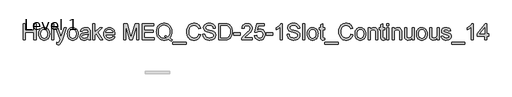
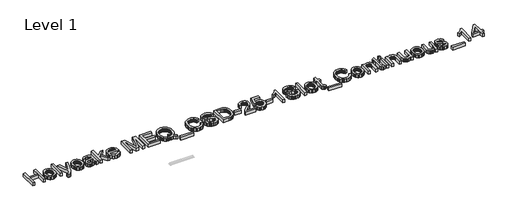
# One storey, part 2 of 2: 1 proxy.
"""IFC4 building model written with IfcOpenShell, lengths in millimetres."""

from ifc_helpers import new_model, si_unit, origin, origin_with_axes, place, context, project, spatial, polyline, outline, extrude, element, save

model = new_model("IFC4")

# Units and contexts
model_context = context("Model", 3, world=origin())
ifc_project = project(units=[si_unit("LENGTHUNIT", "METRE", prefix="MILLI")], contexts=[model_context])

# Site, building, storey
site = spatial("IfcSite", under=ifc_project)
building = spatial("IfcBuilding", under=site)
storey = spatial("IfcBuildingStorey", under=building, Name="Level 1", Elevation=0.0)

# Proxy
placement = place(None, origin())
element("IfcBuildingElementProxy", 1, Name="600mm", ObjectType="600mm", at=placement, inside=storey, context=model_context, shape_type="SweptSolid", body=[
    extrude(outline(polyline([(-7840.5524803, 6390.8910436), (-7840.5524803, 6993.6289045), (-7765.2102477, 6993.6289045), (-7765.2102477, 6748.7666485), (-7445.0057591, 6748.7666485), (-7445.0057591, 6993.6289045), (-7369.6635265, 6993.6289045), (-7369.6635265, 6390.8910436), (-7445.0057591, 6390.8910436), (-7445.0057591, 6673.4244159), (-7765.2102477, 6673.4244159), (-7765.2102477, 6390.8910436), (-7840.5524803, 6390.8910436)])), origin_with_axes(), (0.0, 0.0, 1.0), 120.0),
    extrude(outline(polyline([(-7266.0679567, 6612.2088519), (-7261.9936636, 6669.5340638), (-7249.7707843, 6718.9314187), (-7229.3993188, 6760.4009166), (-7200.8792671, 6793.9425575), (-7172.1660774, 6815.3808807), (-7140.4730435, 6830.6939688), (-7105.8001655, 6839.8818216), (-7068.1474433, 6842.9444392), (-7026.5813763, 6839.2150355), (-6988.997632, 6828.0268243), (-6955.3962103, 6809.3798057), (-6925.7771111, 6783.2739796), (-6901.6026655, 6750.5922629), (-6884.3352044, 6712.2175723), (-6873.9747277, 6668.1499078), (-6870.5212355, 6618.3892694), (-6872.0479457, 6578.0602057), (-6876.6280766, 6542.2744846), (-6884.261628, 6511.0321061), (-6894.9485999, 6484.3330703), (-6908.5556352, 6461.2714678), (-6924.9493766, 6440.941389), (-6944.1298242, 6423.3428341), (-6966.0969778, 6408.4758029), (-6989.9955119, 6396.6621924), (-7014.9701009, 6388.2238991), (-7041.0207446, 6383.1609231), (-7068.1474433, 6381.4732645), (-7110.3205155, 6385.1888726), (-7148.2537477, 6396.3356971), (-7181.9471399, 6414.9137378), (-7211.4006922, 6440.9229949), (-7235.3176204, 6473.9220099), (-7252.4011405, 6513.4693244), (-7262.6512526, 6559.5649384), (-7266.0679567, 6612.2088519)]), holes=[polyline([(-7190.7257241, 6612.3560047), (-7188.5460232, 6575.811527), (-7182.0069208, 6544.1690769), (-7171.1084167, 6517.4286543), (-7155.8505109, 6495.5902594), (-7137.2908643, 6478.6263009), (-7116.4871374, 6466.5091877), (-7093.4393304, 6459.2389197), (-7068.1474433, 6456.8154971), (-7042.9843148, 6459.2527153), (-7020.0284783, 6466.56437), (-6999.2799338, 6478.7504611), (-6980.7386812, 6495.8109886), (-6965.4807755, 6517.8655142), (-6954.5822714, 6545.0335995), (-6948.0431689, 6577.3152446), (-6945.8634681, 6614.7104494), (-6948.0569645, 6650.0960988), (-6954.6374537, 6680.9108145), (-6965.6049356, 6707.1545963), (-6980.9594104, 6728.8274443), (-6999.5696408, 6745.7914028), (-7020.3043898, 6757.9085161), (-7043.1636573, 6765.178784), (-7068.1474433, 6767.6022066), (-7093.4393304, 6765.187981), (-7116.4871374, 6757.9453043), (-7137.2908643, 6745.8741763), (-7155.8505109, 6728.9745971), (-7171.1084167, 6707.2005815), (-7182.0069208, 6680.5061443), (-7188.5460232, 6648.8912853), (-7190.7257241, 6612.3560047)])]), origin_with_axes(), (0.0, 0.0, 1.0), 120.0),
    extrude(outline(polyline([(-6785.7612238, 6390.8910436), (-6785.7612238, 6993.6289045), (-6710.4189912, 6993.6289045), (-6710.4189912, 6390.8910436), (-6785.7612238, 6390.8910436)])), origin_with_axes(), (0.0, 0.0, 1.0), 120.0),
    extrude(outline(polyline([(-6597.4056422, 6221.3710202), (-6606.8234213, 6293.9173496), (-6568.5636938, 6287.2954737), (-6548.4405487, 6289.374007), (-6532.8055639, 6295.6096068), (-6520.6286698, 6305.5608148), (-6510.879797, 6318.7861725), (-6490.2784052, 6374.2627774), (-6484.3922933, 6392.5097243), (-6644.4945376, 6833.5266602), (-6565.0320267, 6833.5266602), (-6480.1248622, 6587.7814874), (-6450.5471498, 6489.4834183), (-6420.9694373, 6576.3035691), (-6333.7078281, 6833.5266602), (-6254.8339283, 6833.5266602), (-6408.9029079, 6380.2960421), (-6448.928469, 6281.997973), (-6469.4194961, 6250.6176388), (-6492.63285, 6228.8758129), (-6519.5986003, 6216.1838841), (-6551.3468164, 6211.9532411), (-6573.1622188, 6214.3076859), (-6597.4056422, 6221.3710202)])), origin_with_axes(), (0.0, 0.0, 1.0), 120.0),
    extrude(outline(polyline([(-6211.2767001, 6612.2088519), (-6207.202407, 6669.5340638), (-6194.9795277, 6718.9314187), (-6174.6080622, 6760.4009166), (-6146.0880106, 6793.9425575), (-6117.3748208, 6815.3808807), (-6085.6817869, 6830.6939688), (-6051.0089089, 6839.8818216), (-6013.3561867, 6842.9444392), (-5971.7901198, 6839.2150355), (-5934.2063754, 6828.0268243), (-5900.6049537, 6809.3798057), (-5870.9858546, 6783.2739796), (-5846.811409, 6750.5922629), (-5829.5439478, 6712.2175723), (-5819.1834711, 6668.1499078), (-5815.7299789, 6618.3892694), (-5817.2566892, 6578.0602057), (-5821.83682, 6542.2744846), (-5829.4703714, 6511.0321061), (-5840.1573434, 6484.3330703), (-5853.7643787, 6461.2714678), (-5870.1581201, 6440.941389), (-5889.3385676, 6423.3428341), (-5911.3057212, 6408.4758029), (-5935.2042553, 6396.6621924), (-5960.1788443, 6388.2238991), (-5986.2294881, 6383.1609231), (-6013.3561867, 6381.4732645), (-6055.5292589, 6385.1888726), (-6093.4624911, 6396.3356971), (-6127.1558834, 6414.9137378), (-6156.6094356, 6440.9229949), (-6180.5263638, 6473.9220099), (-6197.609884, 6513.4693244), (-6207.8599961, 6559.5649384), (-6211.2767001, 6612.2088519)]), holes=[polyline([(-6135.9344675, 6612.3560047), (-6133.7547667, 6575.811527), (-6127.2156642, 6544.1690769), (-6116.3171601, 6517.4286543), (-6101.0592543, 6495.5902594), (-6082.4996077, 6478.6263009), (-6061.6958809, 6466.5091877), (-6038.6480739, 6459.2389197), (-6013.3561867, 6456.8154971), (-5988.1930582, 6459.2527153), (-5965.2372217, 6466.56437), (-5944.4886772, 6478.7504611), (-5925.9474246, 6495.8109886), (-5910.6895189, 6517.8655142), (-5899.7910148, 6545.0335995), (-5893.2519123, 6577.3152446), (-5891.0722115, 6614.7104494), (-5893.2657079, 6650.0960988), (-5899.8461971, 6680.9108145), (-5910.8136791, 6707.1545963), (-5926.1681538, 6728.8274443), (-5944.7783843, 6745.7914028), (-5965.5131332, 6757.9085161), (-5988.3724007, 6765.178784), (-6013.3561867, 6767.6022066), (-6038.6480739, 6765.187981), (-6061.6958809, 6757.9453043), (-6082.4996077, 6745.8741763), (-6101.0592543, 6728.9745971), (-6116.3171601, 6707.2005815), (-6127.2156642, 6680.5061443), (-6133.7547667, 6648.8912853), (-6135.9344675, 6612.3560047)])]), origin_with_axes(), (0.0, 0.0, 1.0), 120.0),
    extrude(outline(polyline([(-5448.4365949, 6447.397718), (-5484.4338481, 6416.5324186), (-5521.4979591, 6396.3356971), (-5560.4750565, 6385.1888726), (-5602.2112689, 6381.4732645), (-5635.7575083, 6383.7081476), (-5665.1742724, 6390.412797), (-5690.461561, 6401.5872126), (-5711.6193742, 6417.2313944), (-5728.3258154, 6436.3520611), (-5740.2589876, 6457.9559313), (-5747.4188909, 6482.0430049), (-5749.8055253, 6508.613282), (-5746.2002818, 6539.8464634), (-5735.3845511, 6568.2101652), (-5718.7011027, 6592.4903769), (-5697.4927056, 6611.4730879), (-5672.5687005, 6625.8204857), (-5644.7384275, 6636.1947579), (-5579.549738, 6647.5255234), (-5502.5152482, 6659.4449), (-5448.8780533, 6673.4244159), (-5448.4365949, 6690.1998348), (-5453.623731, 6723.8242492), (-5460.1076512, 6736.2770547), (-5469.1851394, 6745.8235925), (-5484.8753065, 6755.3517362), (-5503.9867762, 6762.1575531), (-5552.4736231, 6767.6022066), (-5597.3552265, 6763.978569), (-5628.6987725, 6753.107656), (-5650.0727165, 6733.002905), (-5665.0455137, 6701.6777531), (-5740.3877463, 6711.0955322), (-5727.3095413, 6752.2983156), (-5707.7934015, 6784.6719312), (-5680.0183109, 6809.4303895), (-5642.1632536, 6827.787701), (-5595.8653045, 6839.1552547), (-5542.7615385, 6842.9444392), (-5491.8282762, 6839.5967131), (-5451.4532273, 6829.5535346), (-5421.0109922, 6814.4519787), (-5399.8761715, 6795.9291203), (-5385.8598675, 6773.0284661), (-5376.7731822, 6744.7935229), (-5373.0943623, 6678.8690694), (-5373.0943623, 6585.132737), (-5369.2683895, 6454.2403231), (-5363.6030068, 6421.8851017), (-5354.2588041, 6390.8910436), (-5429.6010367, 6390.8910436), (-5441.6675662, 6417.0842416), (-5448.4365949, 6447.397718)]), holes=[polyline([(-5448.4365949, 6598.0821832), (-5499.0571574, 6585.5374072), (-5569.9848061, 6574.979194), (-5634.8056137, 6562.7655117), (-5651.6730031, 6554.4145904), (-5664.1625969, 6542.899884), (-5671.8881188, 6529.1043092), (-5674.4632927, 6513.9107828), (-5668.8530923, 6491.5067692), (-5652.022491, 6473.1494577), (-5624.3393709, 6460.8989872), (-5586.1716139, 6456.8154971), (-5545.7045944, 6461.3220515), (-5509.9464645, 6474.8417149), (-5480.9573633, 6494.7625249), (-5460.7974299, 6518.4725195), (-5451.8578975, 6542.899884), (-5448.8780533, 6576.7450275), (-5448.4365949, 6598.0821832)])]), origin_with_axes(), (0.0, 0.0, 1.0), 120.0),
    extrude(outline(polyline([(-5269.4987924, 6390.8910436), (-5269.4987924, 6993.6289045), (-5194.1565598, 6993.6289045), (-5194.1565598, 6669.7455959), (-5025.2251476, 6833.5266602), (-4921.0409666, 6833.5266602), (-5092.032518, 6667.6854567), (-4911.6231875, 6390.8910436), (-4999.6205608, 6390.8910436), (-5146.0375949, 6615.2990606), (-5194.1565598, 6568.6516236), (-5194.1565598, 6390.8910436), (-5269.4987924, 6390.8910436)])), origin_with_axes(), (0.0, 0.0, 1.0), 120.0),
    extrude(outline(polyline([(-4535.7949413, 6522.7399506), (-4461.9242366, 6513.3221716), (-4473.2504036, 6483.7352621), (-4488.540499, 6457.6616257), (-4507.7945229, 6435.1012623), (-4531.0124753, 6416.054172), (-4557.9552329, 6400.925025), (-4588.3836725, 6390.1184914), (-4622.2977939, 6383.6345712), (-4659.6975972, 6381.4732645), (-4706.4462018, 6385.2026682), (-4748.0996407, 6396.3908794), (-4784.657914, 6415.037898), (-4816.1210216, 6441.1437241), (-4841.4221058, 6473.9817907), (-4859.4943088, 6512.8255309), (-4870.3376306, 6557.6749446), (-4873.9520712, 6608.5300319), (-4870.3008424, 6661.1095661), (-4859.347156, 6707.4535004), (-4841.091012, 6747.5618349), (-4815.5324104, 6781.4345696), (-4784.1520762, 6808.3451376), (-4748.4307345, 6827.5669718), (-4708.3683852, 6839.1000724), (-4663.9650284, 6842.9444392), (-4620.9918128, 6839.1092694), (-4582.1296786, 6827.60376), (-4547.3786256, 6808.427911), (-4516.7386539, 6781.5817224), (-4491.7272768, 6747.7825641), (-4473.8620074, 6707.747806), (-4463.1428457, 6661.4774481), (-4459.5697919, 6608.9714903), (-4460.0112503, 6588.6644042), (-4798.6098386, 6588.6644042), (-4794.2458385, 6558.5992481), (-4785.5684219, 6532.2680943), (-4772.5775889, 6509.6709428), (-4755.2733396, 6490.8077935), (-4734.612167, 6475.9361638), (-4711.5505645, 6465.3135712), (-4686.0885319, 6458.9400156), (-4658.2260693, 6456.8154971), (-4618.1269318, 6460.7518344), (-4584.3553646, 6472.5608465), (-4556.9113678, 6492.9782972), (-4535.7949413, 6522.7399506)]), holes=[polyline([(-4798.6098386, 6664.0066368), (-4534.9120245, 6664.0066368), (-4545.1023557, 6703.8114687), (-4553.8671443, 6719.4648476), (-4565.0783481, 6732.2855351), (-4585.6245575, 6747.7365789), (-4609.0034583, 6758.7730387), (-4635.2150505, 6765.3949147), (-4664.259334, 6767.6022066), (-4690.7514362, 6765.8409716), (-4715.0454434, 6760.5572664), (-4737.1413557, 6751.7510912), (-4757.0391732, 6739.4224458), (-4773.7364172, 6724.1415474), (-4786.2306095, 6706.4786131), (-4794.5217499, 6686.4336429), (-4798.6098386, 6664.0066368)])]), origin_with_axes(), (0.0, 0.0, 1.0), 120.0),
    extrude(outline(polyline([(-4139.3653033, 6390.8910436), (-4139.3653033, 6993.6289045), (-4009.7236882, 6993.6289045), (-3886.4096434, 6568.7987764), (-3861.5408205, 6480.0656392), (-3834.6118585, 6576.1564163), (-3713.3579528, 6993.6289045), (-3583.7163377, 6993.6289045), (-3583.7163377, 6390.8910436), (-3659.0585704, 6390.8910436), (-3659.0585704, 6918.2866719), (-3810.4787996, 6390.8910436), (-3912.6028414, 6390.8910436), (-4064.0230706, 6918.2866719), (-4064.0230706, 6390.8910436), (-4139.3653033, 6390.8910436)])), origin_with_axes(), (0.0, 0.0, 1.0), 120.0),
    extrude(outline(polyline([(-3451.8674307, 6390.8910436), (-3451.8674307, 6993.6289045), (-3018.6495932, 6993.6289045), (-3018.6495932, 6918.2866719), (-3376.5251981, 6918.2866719), (-3376.5251981, 6739.3488694), (-3037.4851513, 6739.3488694), (-3037.4851513, 6664.0066368), (-3376.5251981, 6664.0066368), (-3376.5251981, 6466.2332762), (-3009.2318141, 6466.2332762), (-3009.2318141, 6390.8910436), (-3451.8674307, 6390.8910436)])), origin_with_axes(), (0.0, 0.0, 1.0), 120.0),
    extrude(outline(polyline([(-2443.4293055, 6463.1430674), (-2394.7585175, 6425.9501977), (-2349.9872787, 6400.3088226), (-2370.2943649, 6345.1265234), (-2432.4296338, 6373.9316836), (-2494.3441736, 6415.6127136), (-2528.3272729, 6400.6767046), (-2564.0578117, 6390.0081268), (-2601.53579, 6383.6069801), (-2640.7612077, 6381.4732645), (-2680.2257487, 6383.9334753), (-2717.8324857, 6391.3141079), (-2753.5814186, 6403.6151621), (-2787.4725474, 6420.836638), (-2818.5355834, 6442.5140845), (-2845.8002377, 6468.1830508), (-2869.2665105, 6497.8435366), (-2888.9344017, 6531.4955421), (-2904.4820145, 6568.2699461), (-2915.5874522, 6607.2976272), (-2922.2507148, 6648.5785856), (-2924.4718024, 6692.1128212), (-2922.2553134, 6735.5550863), (-2915.6058463, 6777.0015916), (-2904.5234012, 6816.4523371), (-2889.0079781, 6853.9073227), (-2869.3998677, 6888.1893261), (-2846.039361, 6918.121125), (-2818.926458, 6943.7027192), (-2788.0611586, 6964.9341088), (-2754.3447737, 6981.6083603), (-2718.6786143, 6993.5185399), (-2681.0626803, 7000.6646476), (-2641.4969717, 7003.0466835), (-2601.5955708, 7000.6094653), (-2563.7083238, 6993.2978107), (-2527.8352308, 6981.1117196), (-2493.9762916, 6964.0511921), (-2463.0788026, 6942.6036717), (-2436.0900597, 6917.2566023), (-2413.010063, 6888.0099836), (-2393.8388125, 6854.8638159), (-2378.7740448, 6818.6458335), (-2368.0134965, 6780.1837709), (-2361.5571675, 6739.4776281), (-2359.4050578, 6696.5274052), (-2364.6289821, 6626.9609199), (-2380.3007551, 6564.8256509), (-2392.082176, 6536.5631166), (-2406.5307414, 6510.1951746), (-2423.6464512, 6485.7218249), (-2443.4293055, 6463.1430674)]), holes=[polyline([(-2620.0126632, 6563.3541229), (-2586.8113131, 6552.5475893), (-2556.6633836, 6539.405005), (-2529.5688747, 6523.9263701), (-2505.5277863, 6506.1116845), (-2474.5613193, 6541.060474), (-2452.4424144, 6583.8083618), (-2439.1710714, 6634.355348), (-2434.7472904, 6692.7014324), (-2436.3107889, 6726.9742388), (-2441.0012843, 6759.012162), (-2448.8187767, 6788.8152022), (-2459.7632661, 6816.3833592), (-2473.7197893, 6841.3533496), (-2490.5733832, 6863.36189), (-2510.3240478, 6882.4089803), (-2532.9717831, 6898.4946205), (-2557.7992193, 6911.2739213), (-2584.0889864, 6920.4019933), (-2611.8410844, 6925.8788365), (-2641.0555133, 6927.7044509), (-2684.0241303, 6924.0118354), (-2723.1667746, 6912.9339888), (-2758.4834462, 6894.4709112), (-2789.974145, 6868.6226025), (-2815.8546433, 6835.4442451), (-2834.3407136, 6794.9910212), (-2845.4323557, 6747.2629308), (-2849.1295698, 6692.259974), (-2845.4737425, 6638.691757), (-2834.5062605, 6591.7362188), (-2816.2271238, 6551.3933595), (-2790.6363325, 6517.6631791), (-2759.3617644, 6491.0423182), (-2724.0312973, 6472.0274176), (-2684.6449312, 6460.6184772), (-2641.2026661, 6456.8154971), (-2599.3744833, 6460.678258), (-2560.1214744, 6472.2665409), (-2598.7122957, 6492.3161096), (-2639.4368325, 6505.6702261), (-2620.0126632, 6563.3541229)])]), origin_with_axes(), (0.0, 0.0, 1.0), 120.0),
    extrude(outline(polyline([(-2321.7339415, 6221.3710202), (-2321.7339415, 6296.7132528), (-1832.0094295, 6296.7132528), (-1832.0094295, 6221.3710202), (-2321.7339415, 6221.3710202)])), origin_with_axes(), (0.0, 0.0, 1.0), 120.0),
    extrude(outline(polyline([(-1361.1204757, 6605.1455176), (-1285.7782431, 6585.7213482), (-1300.6866609, 6538.8669776), (-1320.5430916, 6497.9263101), (-1345.3475351, 6462.8993456), (-1375.0999915, 6433.7860842), (-1409.1290761, 6410.8992256), (-1446.7634042, 6394.5514694), (-1488.0029758, 6384.7428157), (-1532.847791, 6381.4732645), (-1578.7916537, 6383.9472709), (-1620.238159, 6391.3692902), (-1657.1873069, 6403.7393222), (-1689.6390974, 6421.0573672), (-1718.0395874, 6443.0659075), (-1742.8348339, 6469.5074259), (-1764.0248368, 6500.3819224), (-1781.6095962, 6535.6893969), (-1795.4189666, 6573.9031391), (-1805.2828026, 6613.4964388), (-1811.2011042, 6654.4692961), (-1813.1738714, 6696.8217108), (-1810.9435868, 6742.2643342), (-1804.252733, 6784.7087194), (-1793.10131, 6824.1548663), (-1777.4893178, 6860.602775), (-1757.7662444, 6893.4500387), (-1734.2815775, 6922.0942505), (-1707.0353172, 6946.5354106), (-1676.0274636, 6966.7735188), (-1642.3110787, 6982.6430284), (-1606.9392249, 6993.9783924), (-1569.911902, 7000.7796107), (-1531.2291103, 7003.0466835), (-1488.136333, 7000.1128246), (-1448.6212082, 6991.3112479), (-1412.6837358, 6976.6419533), (-1380.3239158, 6956.104941), (-1352.0751771, 6930.2428367), (-1328.4709486, 6899.5982665), (-1309.5112303, 6864.1712304), (-1295.1960222, 6823.9617283), (-1370.5382548, 6806.0090869), (-1382.4024491, 6835.6373831), (-1396.6578764, 6860.9522629), (-1413.3045367, 6881.9537263), (-1432.34243, 6898.6417733), (-1453.8819208, 6911.3566948), (-1478.0333738, 6920.4387815), (-1504.7967889, 6925.8880336), (-1534.1721662, 6927.7044509), (-1567.9713245, 6925.690297), (-1598.8826092, 6919.6478352), (-1626.9060202, 6909.5770656), (-1652.0415575, 6895.4779881), (-1673.9719229, 6877.9851993), (-1692.3798182, 6857.7332954), (-1707.2652435, 6834.7222766), (-1718.6281986, 6808.9521429), (-1733.0307787, 6753.8066318), (-1737.8316387, 6696.9688636), (-1732.1478619, 6627.3655901), (-1725.0431409, 6596.0956205), (-1715.0965314, 6567.1800957), (-1702.1470852, 6541.1938312), (-1686.0338538, 6518.7116428), (-1666.7568373, 6499.7335304), (-1644.3160356, 6484.2594939), (-1619.8012991, 6472.2527453), (-1594.3024783, 6463.6764963), (-1567.8195732, 6458.5307469), (-1540.3525837, 6456.8154971), (-1507.5972906, 6459.1515478), (-1477.4631567, 6466.1596998), (-1449.9501819, 6477.8399531), (-1425.0583664, 6494.1923078), (-1403.3763214, 6515.1431874), (-1385.4926579, 6540.6190156), (-1371.407376, 6570.6197923), (-1361.1204757, 6605.1455176)])), origin_with_axes(), (0.0, 0.0, 1.0), 120.0),
    extrude(outline(polyline([(-1210.4360105, 6598.0821832), (-1135.0937778, 6598.0821832), (-1126.448551, 6556.2723945), (-1110.8135662, 6522.6663742), (-1086.4229899, 6495.9949296), (-1051.5109885, 6474.9888677), (-1008.8366771, 6461.3588397), (-961.1591705, 6456.8154971), (-919.1838349, 6460.2551938), (-882.4324236, 6470.5742837), (-852.6523761, 6486.9082443), (-831.5911318, 6508.3925528), (-819.0647499, 6533.0590406), (-814.8892892, 6558.939539), (-818.0162862, 6584.1578497), (-827.3972771, 6605.9548579), (-846.4535644, 6624.5512928), (-878.6064508, 6640.1678835), (-988.3088618, 6668.9362555), (-1060.3217623, 6687.9741488), (-1106.3989822, 6706.092337), (-1143.9045516, 6731.4394065), (-1170.4840258, 6762.1575531), (-1186.3213457, 6797.5845892), (-1191.6004523, 6837.0583273), (-1189.967976, 6859.4945305), (-1185.0705469, 6881.1857726), (-1176.9081651, 6902.1320537), (-1165.4808307, 6922.3333738), (-1150.9173022, 6940.9665969), (-1133.3463384, 6957.2085869), (-1112.7679393, 6971.0593441), (-1089.1821049, 6982.5188682), (-1036.1703093, 6997.9147297), (-977.4931311, 7003.0466835), (-913.9231223, 6997.6756064), (-858.2993647, 6981.562375), (-833.9639707, 6969.5602249), (-812.6084209, 6955.0380832), (-794.2327152, 6937.9959497), (-778.8368537, 6918.4338246), (-766.540398, 6896.921925), (-757.4629098, 6874.0304678), (-751.604389, 6849.7594532), (-748.9648357, 6824.1088811), (-824.3070683, 6824.1088811), (-829.3470517, 6848.1499695), (-838.1394313, 6869.0640609), (-850.6842074, 6886.8511554), (-866.9813798, 6901.5112529), (-887.3344511, 6912.970777), (-912.0469242, 6921.1561514), (-941.1187988, 6926.067376), (-974.5500752, 6927.7044509), (-1009.0482093, 6926.0857701), (-1038.5247541, 6921.2297278), (-1062.9797097, 6913.1363239), (-1082.4130761, 6901.8055585), (-1097.2203264, 6888.1847276), (-1107.7969338, 6873.2211274), (-1114.1428982, 6856.914758), (-1116.2582197, 6839.2656193), (-1114.7591006, 6824.0812899), (-1110.2617432, 6810.3133063), (-1102.7661475, 6797.9616683), (-1092.2723136, 6787.026376), (-1075.754412, 6776.6704978), (-1049.745155, 6766.204255), (-969.2525744, 6744.9406757), (-886.1848199, 6724.7439542), (-835.9321394, 6707.1224066), (-792.9819164, 6679.7887744), (-776.3766429, 6663.7215282), (-763.0179279, 6646.0539954), (-752.7494217, 6626.8781464), (-745.4147745, 6606.2859517), (-739.5470566, 6560.8525253), (-741.2347153, 6537.285085), (-746.2976912, 6514.4074234), (-754.7359845, 6492.2195406), (-766.5495951, 6470.7214365), (-781.5315893, 6450.7454442), (-799.4750336, 6433.1238966), (-820.379928, 6417.8567938), (-844.2462725, 6404.9441358), (-870.3796897, 6394.6756296), (-898.0858025, 6387.3409823), (-958.2161146, 6381.4732645), (-996.7563521, 6383.0551571), (-1032.0316369, 6387.8008348), (-1064.041969, 6395.7102977), (-1092.7873484, 6406.7835458), (-1118.442519, 6421.0389731), (-1141.1822249, 6438.4949737), (-1161.0064659, 6459.1515478), (-1177.9152421, 6483.0086952), (-1191.536073, 6509.2938637), (-1201.496478, 6537.2345012), (-1207.7964571, 6566.8306078), (-1210.4360105, 6598.0821832)])), origin_with_axes(), (0.0, 0.0, 1.0), 120.0),
    extrude(outline(polyline([(-626.5337077, 6390.8910436), (-626.5337077, 6993.6289045), (-418.606804, 6993.6289045), (-356.4715351, 6991.4584007), (-311.0381087, 6984.9468894), (-262.9927201, 6968.2082586), (-222.4521242, 6941.8311195), (-200.1124901, 6920.2732346), (-180.7710942, 6895.9194465), (-164.4279365, 6868.7697553), (-151.0830172, 6838.8241609), (-140.7179419, 6806.3585748), (-133.3143168, 6771.6489086), (-127.3914167, 6695.4973356), (-131.4013304, 6630.8052867), (-143.4310717, 6573.875548), (-161.751595, 6525.4070951), (-184.6338551, 6486.0989039), (-210.974206, 6455.0680576), (-239.6690016, 6431.4316394), (-272.6128343, 6413.9020624), (-311.7002962, 6401.1917394), (-357.004964, 6393.4662175), (-408.6004138, 6390.8910436), (-626.5337077, 6390.8910436)]), holes=[polyline([(-551.1914751, 6466.2332762), (-417.8710401, 6466.2332762), (-362.725529, 6468.9556029), (-320.8973461, 6477.1225832), (-289.3330709, 6490.2559705), (-264.9792829, 6507.877518), (-238.8044789, 6540.4902569), (-219.1411863, 6582.7047159), (-206.8355335, 6634.7048359), (-202.7336493, 6696.674558), (-204.7432047, 6740.4157272), (-210.7718709, 6778.7858193), (-220.8196479, 6811.7848342), (-234.8865357, 6839.4127721), (-251.8321001, 6862.2950322), (-270.5159069, 6881.0570139), (-290.9379561, 6895.6987173), (-313.0982478, 6906.2201424), (-356.4347469, 6915.2700395), (-419.9311792, 6918.2866719), (-551.1914751, 6918.2866719), (-551.1914751, 6466.2332762)])]), origin_with_axes(), (0.0, 0.0, 1.0), 120.0),
    extrude(outline(polyline([(-70.8847422, 6569.828846), (-70.8847422, 6645.1710786), (164.5597347, 6645.1710786), (164.5597347, 6569.828846), (-70.8847422, 6569.828846)])), origin_with_axes(), (0.0, 0.0, 1.0), 120.0),
    extrude(outline(polyline([(616.6131304, 6466.2332762), (616.6131304, 6390.8910436), (221.0664092, 6390.8910436), (222.7218781, 6417.4153354), (229.1598131, 6442.8359813), (247.7378538, 6483.4317595), (274.9243333, 6522.813527), (314.2509185, 6564.0347046), (369.2492768, 6610.1487127), (450.5511978, 6682.3639483), (499.3323503, 6735.6700494), (513.5601865, 6757.4486636), (523.7229266, 6778.9329721), (529.8205707, 6800.122975), (531.8531187, 6821.0186723), (529.9355338, 6840.6773664), (524.1827791, 6858.7449709), (514.5948546, 6875.2214858), (501.1717603, 6890.106911), (484.6584572, 6902.4355564), (465.7999065, 6911.2417316), (444.596108, 6916.5254368), (421.0470617, 6918.2866719), (396.2380197, 6916.5668235), (374.0501369, 6911.4072785), (354.4834132, 6902.8080369), (337.5378488, 6890.7690986), (323.829646, 6875.6951339), (313.9750071, 6857.9908128), (307.973932, 6837.6561356), (305.8264209, 6814.691102), (230.4841882, 6824.1088811), (236.9635099, 6863.003205), (248.7495293, 6896.9863043), (265.8422465, 6926.058179), (288.2416615, 6950.218829), (315.4327395, 6969.210737), (346.9004456, 6982.7763856), (382.64478, 6990.9157747), (422.6657425, 6993.6289045), (463.04539, 6990.6122721), (498.9828624, 6981.562375), (530.4781597, 6966.4792132), (557.531282, 6945.3627867), (579.2593123, 6919.7765939), (594.779334, 6891.2841334), (604.091347, 6859.8854051), (607.1953513, 6825.5804091), (603.8476252, 6789.5463676), (593.8044467, 6754.1377256), (575.980564, 6718.1220783), (549.2907253, 6680.267021), (506.7451725, 6635.0727179), (441.3541479, 6577.0393331), (354.6811498, 6504.5665801), (320.6888535, 6466.2332762), (616.6131304, 6466.2332762)])), origin_with_axes(), (0.0, 0.0, 1.0), 120.0),
    extrude(outline(polyline([(691.955363, 6550.9932879), (767.2975956, 6560.4110669), (772.9261901, 6536.1906361), (781.1299586, 6515.1799756), (791.9089011, 6497.3790856), (805.2630175, 6482.787966), (821.1647168, 6471.4250108), (839.5864077, 6463.3086143), (860.5280902, 6458.4387764), (883.9897645, 6456.8154971), (912.6845601, 6459.0733728), (937.9948414, 6465.8470001), (959.9206083, 6477.1363788), (978.4618608, 6492.941509), (993.2047318, 6512.4806415), (1003.7353539, 6534.972027), (1010.0537272, 6560.4156655), (1012.1598516, 6588.811557), (1010.1870844, 6615.6485485), (1004.2687828, 6639.5056959), (994.4049468, 6660.3829991), (980.5955764, 6678.2804582), (962.7946864, 6692.6370531), (940.9562914, 6702.8917637), (915.0803916, 6709.04459), (885.1669869, 6711.0955322), (848.6179106, 6707.8213824), (819.0218041, 6697.9989331), (795.3853859, 6682.9525595), (776.7153747, 6664.0066368), (701.3731421, 6673.4244159), (767.2975956, 6984.2111254), (1059.248747, 6984.2111254), (1059.248747, 6908.8688928), (828.218854, 6908.8688928), (795.9923912, 6742.8805366), (822.5810624, 6761.9368239), (849.8135271, 6775.5484577), (877.6897853, 6783.715438), (906.209837, 6786.4377648), (942.9014675, 6783.0624475), (976.6040568, 6772.9364956), (1007.3176048, 6756.059909), (1035.0421117, 6732.4326879), (1057.9933497, 6703.498769), (1074.3870911, 6670.7020891), (1084.2233359, 6634.0426483), (1087.5020842, 6593.5204465), (1084.5498312, 6554.4881668), (1075.6930722, 6518.1782139), (1060.9318071, 6484.5905877), (1040.266036, 6453.7252883), (1008.9592782, 6422.1150279), (972.4285961, 6399.5362705), (930.6739897, 6385.989016), (883.6954589, 6381.4732645), (844.8149305, 6384.3749337), (809.6959956, 6393.0799414), (778.338654, 6407.5882876), (750.7429058, 6427.8999723), (727.7824708, 6453.0033199), (710.3310687, 6481.8866551), (698.3886994, 6514.5499777), (691.955363, 6550.9932879)])), origin_with_axes(), (0.0, 0.0, 1.0), 120.0),
    extrude(outline(polyline([(1134.5909796, 6569.828846), (1134.5909796, 6645.1710786), (1370.0354565, 6645.1710786), (1370.0354565, 6569.828846), (1134.5909796, 6569.828846)])), origin_with_axes(), (0.0, 0.0, 1.0), 120.0),
    extrude(outline(polyline([(1718.4932823, 6390.8910436), (1643.1510497, 6390.8910436), (1643.1510497, 6860.602775), (1611.6971391, 6835.163735), (1571.7819427, 6809.7614833), (1529.8801834, 6787.5598049), (1492.4665845, 6771.722485), (1492.4665845, 6842.9444392), (1551.6404034, 6875.1341138), (1602.9047595, 6913.4306295), (1643.3165966, 6954.1551664), (1669.932859, 6993.6289045), (1718.4932823, 6993.6289045), (1718.4932823, 6390.8910436)])), origin_with_axes(), (0.0, 0.0, 1.0), 120.0),
    extrude(outline(polyline([(1897.4310848, 6598.0821832), (1972.7733174, 6598.0821832), (1981.4185443, 6556.2723945), (1997.0535291, 6522.6663742), (2021.4441054, 6495.9949296), (2056.3561067, 6474.9888677), (2099.0304181, 6461.3588397), (2146.7079247, 6456.8154971), (2188.6832604, 6460.2551938), (2225.4346717, 6470.5742837), (2255.2147192, 6486.9082443), (2276.2759634, 6508.3925528), (2288.8023454, 6533.0590406), (2292.977806, 6558.939539), (2289.850809, 6584.1578497), (2280.4698182, 6605.9548579), (2261.4135308, 6624.5512928), (2229.2606444, 6640.1678835), (2119.5582335, 6668.9362555), (2047.5453329, 6687.9741488), (2001.468113, 6706.092337), (1963.9625436, 6731.4394065), (1937.3830695, 6762.1575531), (1921.5457496, 6797.5845892), (1916.2666429, 6837.0583273), (1917.8991193, 6859.4945305), (1922.7965484, 6881.1857726), (1930.9589301, 6902.1320537), (1942.3862646, 6922.3333738), (1956.9497931, 6940.9665969), (1974.5207569, 6957.2085869), (1995.099156, 6971.0593441), (2018.6849904, 6982.5188682), (2071.6967859, 6997.9147297), (2130.3739641, 7003.0466835), (2193.9439729, 6997.6756064), (2249.5677306, 6981.562375), (2273.9031246, 6969.5602249), (2295.2586744, 6955.0380832), (2313.63438, 6937.9959497), (2329.0302415, 6918.4338246), (2341.3266972, 6896.921925), (2350.4041855, 6874.0304678), (2356.2627062, 6849.7594532), (2358.9022595, 6824.1088811), (2283.5600269, 6824.1088811), (2278.5200436, 6848.1499695), (2269.7276639, 6869.0640609), (2257.1828879, 6886.8511554), (2240.8857155, 6901.5112529), (2220.5326441, 6912.970777), (2195.8201711, 6921.1561514), (2166.7482964, 6926.067376), (2133.3170201, 6927.7044509), (2098.818886, 6926.0857701), (2069.3423411, 6921.2297278), (2044.8873855, 6913.1363239), (2025.4540191, 6901.8055585), (2010.6467688, 6888.1847276), (2000.0701614, 6873.2211274), (1993.724197, 6856.914758), (1991.6088756, 6839.2656193), (1993.1079947, 6824.0812899), (1997.6053521, 6810.3133063), (2005.1009477, 6797.9616683), (2015.5947816, 6787.026376), (2032.1126832, 6776.6704978), (2058.1219403, 6766.204255), (2138.6145208, 6744.9406757), (2221.6822753, 6724.7439542), (2271.9349559, 6707.1224066), (2314.8851788, 6679.7887744), (2331.4904524, 6663.7215282), (2344.8491673, 6646.0539954), (2355.1176735, 6626.8781464), (2362.4523208, 6606.2859517), (2368.3200386, 6560.8525253), (2366.63238, 6537.285085), (2361.569404, 6514.4074234), (2353.1311107, 6492.2195406), (2341.3175002, 6470.7214365), (2326.3355059, 6450.7454442), (2308.3920616, 6433.1238966), (2287.4871672, 6417.8567938), (2263.6208228, 6404.9441358), (2237.4874056, 6394.6756296), (2209.7812928, 6387.3409823), (2149.6509807, 6381.4732645), (2111.1107432, 6383.0551571), (2075.8354584, 6387.8008348), (2043.8251262, 6395.7102977), (2015.0797468, 6406.7835458), (1989.4245762, 6421.0389731), (1966.6848704, 6438.4949737), (1946.8606294, 6459.1515478), (1929.9518532, 6483.0086952), (1916.3310223, 6509.2938637), (1906.3706173, 6537.2345012), (1900.0706381, 6566.8306078), (1897.4310848, 6598.0821832)])), origin_with_axes(), (0.0, 0.0, 1.0), 120.0),
    extrude(outline(polyline([(2471.9156085, 6390.8910436), (2471.9156085, 6993.6289045), (2547.2578411, 6993.6289045), (2547.2578411, 6390.8910436), (2471.9156085, 6390.8910436)])), origin_with_axes(), (0.0, 0.0, 1.0), 120.0),
    extrude(outline(polyline([(2641.4356318, 6612.2088519), (2645.5099249, 6669.5340638), (2657.7328042, 6718.9314187), (2678.1042697, 6760.4009166), (2706.6243214, 6793.9425575), (2735.3375111, 6815.3808807), (2767.030545, 6830.6939688), (2801.703423, 6839.8818216), (2839.3561452, 6842.9444392), (2880.9222122, 6839.2150355), (2918.5059565, 6828.0268243), (2952.1073782, 6809.3798057), (2981.7264774, 6783.2739796), (3005.900923, 6750.5922629), (3023.1683841, 6712.2175723), (3033.5288608, 6668.1499078), (3036.9823531, 6618.3892694), (3035.4556428, 6578.0602057), (3030.8755119, 6542.2744846), (3023.2419605, 6511.0321061), (3012.5549886, 6484.3330703), (2998.9479533, 6461.2714678), (2982.5542119, 6440.941389), (2963.3737643, 6423.3428341), (2941.4066107, 6408.4758029), (2917.5080766, 6396.6621924), (2892.5334876, 6388.2238991), (2866.4828439, 6383.1609231), (2839.3561452, 6381.4732645), (2797.183073, 6385.1888726), (2759.2498408, 6396.3356971), (2725.5564486, 6414.9137378), (2696.1028963, 6440.9229949), (2672.1859681, 6473.9220099), (2655.102448, 6513.4693244), (2644.8523359, 6559.5649384), (2641.4356318, 6612.2088519)]), holes=[polyline([(2716.7778644, 6612.3560047), (2718.9575653, 6575.811527), (2725.4966677, 6544.1690769), (2736.3951718, 6517.4286543), (2751.6530776, 6495.5902594), (2770.2127242, 6478.6263009), (2791.0164511, 6466.5091877), (2814.0642581, 6459.2389197), (2839.3561452, 6456.8154971), (2864.5192737, 6459.2527153), (2887.4751102, 6466.56437), (2908.2236547, 6478.7504611), (2926.7649073, 6495.8109886), (2942.022813, 6517.8655142), (2952.9213172, 6545.0335995), (2959.4604196, 6577.3152446), (2961.6401204, 6614.7104494), (2959.446624, 6650.0960988), (2952.8661349, 6680.9108145), (2941.8986529, 6707.1545963), (2926.5441781, 6728.8274443), (2907.9339477, 6745.7914028), (2887.1991987, 6757.9085161), (2864.3399312, 6765.178784), (2839.3561452, 6767.6022066), (2814.0642581, 6765.187981), (2791.0164511, 6757.9453043), (2770.2127242, 6745.8741763), (2751.6530776, 6728.9745971), (2736.3951718, 6707.2005815), (2725.4966677, 6680.5061443), (2718.9575653, 6648.8912853), (2716.7778644, 6612.3560047)])]), origin_with_axes(), (0.0, 0.0, 1.0), 120.0),
    extrude(outline(polyline([(3281.844609, 6453.7252883), (3291.2623881, 6388.6837516), (3234.9028665, 6381.4732645), (3198.7400663, 6384.6002614), (3171.7743161, 6393.9812523), (3152.7180287, 6408.4390147), (3140.2836173, 6426.7963263), (3133.4410122, 6458.3238133), (3131.1601438, 6512.292102), (3131.1601438, 6758.1844275), (3074.6534694, 6758.1844275), (3074.6534694, 6833.5266602), (3131.1601438, 6833.5266602), (3131.1601438, 6941.0953556), (3206.5023764, 6985.3883478), (3206.5023764, 6833.5266602), (3281.844609, 6833.5266602), (3281.844609, 6758.1844275), (3206.5023764, 6758.1844275), (3206.5023764, 6514.4993939), (3210.475502, 6475.6510553), (3223.3513718, 6461.8922686), (3234.2222848, 6458.08469), (3249.0295351, 6456.8154971), (3281.844609, 6453.7252883)])), origin_with_axes(), (0.0, 0.0, 1.0), 120.0),
    extrude(outline(polyline([(3291.2623881, 6221.3710202), (3291.2623881, 6296.7132528), (3780.9869001, 6296.7132528), (3780.9869001, 6221.3710202), (3291.2623881, 6221.3710202)])), origin_with_axes(), (0.0, 0.0, 1.0), 120.0),
    extrude(outline(polyline([(4251.8758539, 6605.1455176), (4327.2180865, 6585.7213482), (4312.3096687, 6538.8669776), (4292.453238, 6497.9263101), (4267.6487945, 6462.8993456), (4237.8963381, 6433.7860842), (4203.8672536, 6410.8992256), (4166.2329254, 6394.5514694), (4124.9933538, 6384.7428157), (4080.1485386, 6381.4732645), (4034.2046759, 6383.9472709), (3992.7581706, 6391.3692902), (3955.8090227, 6403.7393222), (3923.3572322, 6421.0573672), (3894.9567422, 6443.0659075), (3870.1614957, 6469.5074259), (3848.9714928, 6500.3819224), (3831.3867334, 6535.6893969), (3817.577363, 6573.9031391), (3807.713527, 6613.4964388), (3801.7952254, 6654.4692961), (3799.8224582, 6696.8217108), (3802.0527428, 6742.2643342), (3808.7435966, 6784.7087194), (3819.8950196, 6824.1548663), (3835.5070118, 6860.602775), (3855.2300852, 6893.4500387), (3878.7147521, 6922.0942505), (3905.9610124, 6946.5354106), (3936.9688661, 6966.7735188), (3970.6852509, 6982.6430284), (4006.0571047, 6993.9783924), (4043.0844276, 7000.7796107), (4081.7672194, 7003.0466835), (4124.8599966, 7000.1128246), (4164.3751214, 6991.3112479), (4200.3125938, 6976.6419533), (4232.6724138, 6956.104941), (4260.9211525, 6930.2428367), (4284.525381, 6899.5982665), (4303.4850993, 6864.1712304), (4317.8003075, 6823.9617283), (4242.4580748, 6806.0090869), (4230.5938805, 6835.6373831), (4216.3384532, 6860.9522629), (4199.6917929, 6881.9537263), (4180.6538997, 6898.6417733), (4159.1144088, 6911.3566948), (4134.9629559, 6920.4387815), (4108.1995407, 6925.8880336), (4078.8241634, 6927.7044509), (4045.0250051, 6925.690297), (4014.1137204, 6919.6478352), (3986.0903095, 6909.5770656), (3960.9547721, 6895.4779881), (3939.0244067, 6877.9851993), (3920.6165114, 6857.7332954), (3905.7310861, 6834.7222766), (3894.368131, 6808.9521429), (3879.9655509, 6753.8066318), (3875.1646909, 6696.9688636), (3880.8484677, 6627.3655901), (3887.9531887, 6596.0956205), (3897.8997982, 6567.1800957), (3910.8492444, 6541.1938312), (3926.9624758, 6518.7116428), (3946.2394923, 6499.7335304), (3968.680294, 6484.2594939), (3993.1950305, 6472.2527453), (4018.6938513, 6463.6764963), (4045.1767564, 6458.5307469), (4072.6437459, 6456.8154971), (4105.399039, 6459.1515478), (4135.5331729, 6466.1596998), (4163.0461477, 6477.8399531), (4187.9379632, 6494.1923078), (4209.6200083, 6515.1431874), (4227.5036717, 6540.6190156), (4241.5889536, 6570.6197923), (4251.8758539, 6605.1455176)])), origin_with_axes(), (0.0, 0.0, 1.0), 120.0),
    extrude(outline(polyline([(4402.5603191, 6612.2088519), (4406.6346122, 6669.5340638), (4418.8574915, 6718.9314187), (4439.228957, 6760.4009166), (4467.7490087, 6793.9425575), (4496.4621984, 6815.3808807), (4528.1552323, 6830.6939688), (4562.8281103, 6839.8818216), (4600.4808326, 6842.9444392), (4642.0468995, 6839.2150355), (4679.6306438, 6828.0268243), (4713.2320655, 6809.3798057), (4742.8511647, 6783.2739796), (4767.0256103, 6750.5922629), (4784.2930714, 6712.2175723), (4794.6535481, 6668.1499078), (4798.1070404, 6618.3892694), (4796.5803301, 6578.0602057), (4792.0001992, 6542.2744846), (4784.3666478, 6511.0321061), (4773.6796759, 6484.3330703), (4760.0726406, 6461.2714678), (4743.6788992, 6440.941389), (4724.4984517, 6423.3428341), (4702.531298, 6408.4758029), (4678.6327639, 6396.6621924), (4653.658175, 6388.2238991), (4627.6075312, 6383.1609231), (4600.4808326, 6381.4732645), (4558.3077603, 6385.1888726), (4520.3745281, 6396.3356971), (4486.6811359, 6414.9137378), (4457.2275836, 6440.9229949), (4433.3106554, 6473.9220099), (4416.2271353, 6513.4693244), (4405.9770232, 6559.5649384), (4402.5603191, 6612.2088519)]), holes=[polyline([(4477.9025518, 6612.3560047), (4480.0822526, 6575.811527), (4486.621355, 6544.1690769), (4497.5198592, 6517.4286543), (4512.7777649, 6495.5902594), (4531.3374116, 6478.6263009), (4552.1411384, 6466.5091877), (4575.1889454, 6459.2389197), (4600.4808326, 6456.8154971), (4625.643961, 6459.2527153), (4648.5997975, 6466.56437), (4669.348342, 6478.7504611), (4687.8895946, 6495.8109886), (4703.1475004, 6517.8655142), (4714.0460045, 6545.0335995), (4720.5851069, 6577.3152446), (4722.7648077, 6614.7104494), (4720.5713114, 6650.0960988), (4713.9908222, 6680.9108145), (4703.0233402, 6707.1545963), (4687.6688654, 6728.8274443), (4669.058635, 6745.7914028), (4648.323886, 6757.9085161), (4625.4646186, 6765.178784), (4600.4808326, 6767.6022066), (4575.1889454, 6765.187981), (4552.1411384, 6757.9453043), (4531.3374116, 6745.8741763), (4512.7777649, 6728.9745971), (4497.5198592, 6707.2005815), (4486.621355, 6680.5061443), (4480.0822526, 6648.8912853), (4477.9025518, 6612.3560047)])]), origin_with_axes(), (0.0, 0.0, 1.0), 120.0),
    extrude(outline(polyline([(4882.8670521, 6390.8910436), (4882.8670521, 6833.5266602), (4958.2092847, 6833.5266602), (4958.2092847, 6771.722485), (4984.3840886, 6802.88209), (5015.8196051, 6825.1389507), (5052.5158341, 6838.4930671), (5094.4727757, 6842.9444392), (5131.6104631, 6839.3575898), (5165.6211535, 6828.5970414), (5193.9848554, 6812.0055634), (5214.1815769, 6790.9259251), (5227.8851812, 6765.4133088), (5236.7695314, 6735.5228966), (5240.742657, 6662.6822616), (5240.742657, 6390.8910436), (5165.4004243, 6390.8910436), (5165.4004243, 6652.5287185), (5163.2299206, 6691.4874218), (5156.7184093, 6719.1889361), (5144.7070621, 6739.0361697), (5126.0370509, 6754.4320312), (5102.1063271, 6764.3096628), (5074.3128423, 6767.6022066), (5051.4351808, 6765.7535996), (5030.185397, 6760.2077785), (5010.5634911, 6750.9647434), (4992.569463, 6738.0244942), (4977.536885, 6719.915503), (4966.7993292, 6695.1662418), (4960.3567958, 6663.7767105), (4958.2092847, 6625.7469093), (4958.2092847, 6390.8910436), (4882.8670521, 6390.8910436)])), origin_with_axes(), (0.0, 0.0, 1.0), 120.0),
    extrude(outline(polyline([(5504.4404711, 6453.7252883), (5513.8582502, 6388.6837516), (5457.4987285, 6381.4732645), (5421.3359284, 6384.6002614), (5394.3701781, 6393.9812523), (5375.3138908, 6408.4390147), (5362.8794794, 6426.7963263), (5356.0368742, 6458.3238133), (5353.7560059, 6512.292102), (5353.7560059, 6758.1844275), (5297.2493314, 6758.1844275), (5297.2493314, 6833.5266602), (5353.7560059, 6833.5266602), (5353.7560059, 6941.0953556), (5429.0982385, 6985.3883478), (5429.0982385, 6833.5266602), (5504.4404711, 6833.5266602), (5504.4404711, 6758.1844275), (5429.0982385, 6758.1844275), (5429.0982385, 6514.4993939), (5433.071364, 6475.6510553), (5445.9472339, 6461.8922686), (5456.8181468, 6458.08469), (5471.6253971, 6456.8154971), (5504.4404711, 6453.7252883)])), origin_with_axes(), (0.0, 0.0, 1.0), 120.0),
    extrude(outline(polyline([(5579.7827037, 6918.2866719), (5579.7827037, 6993.6289045), (5655.1249363, 6993.6289045), (5655.1249363, 6918.2866719), (5579.7827037, 6918.2866719)])), origin_with_axes(), (0.0, 0.0, 1.0), 120.0),
    extrude(outline(polyline([(5579.7827037, 6390.8910436), (5579.7827037, 6833.5266602), (5655.1249363, 6833.5266602), (5655.1249363, 6390.8910436), (5579.7827037, 6390.8910436)])), origin_with_axes(), (0.0, 0.0, 1.0), 120.0),
    extrude(outline(polyline([(5768.1382852, 6390.8910436), (5768.1382852, 6833.5266602), (5843.4805179, 6833.5266602), (5843.4805179, 6771.722485), (5869.6553218, 6802.88209), (5901.0908383, 6825.1389507), (5937.7870673, 6838.4930671), (5979.7440089, 6842.9444392), (6016.8816963, 6839.3575898), (6050.8923867, 6828.5970414), (6079.2560886, 6812.0055634), (6099.4528101, 6790.9259251), (6113.1564144, 6765.4133088), (6122.0407646, 6735.5228966), (6126.0138902, 6662.6822616), (6126.0138902, 6390.8910436), (6050.6716575, 6390.8910436), (6050.6716575, 6652.5287185), (6048.5011538, 6691.4874218), (6041.9896425, 6719.1889361), (6029.9782953, 6739.0361697), (6011.3082841, 6754.4320312), (5987.3775603, 6764.3096628), (5959.5840755, 6767.6022066), (5936.706414, 6765.7535996), (5915.4566302, 6760.2077785), (5895.8347243, 6750.9647434), (5877.8406962, 6738.0244942), (5862.8081182, 6719.915503), (5852.0705624, 6695.1662418), (5845.628029, 6663.7767105), (5843.4805179, 6625.7469093), (5843.4805179, 6390.8910436), (5768.1382852, 6390.8910436)])), origin_with_axes(), (0.0, 0.0, 1.0), 120.0),
    extrude(outline(polyline([(6512.1428323, 6390.8910436), (6512.1428323, 6466.9690402), (6484.8827764, 6429.5646383), (6453.1345603, 6402.8472084), (6416.8981837, 6386.8167505), (6376.1736469, 6381.4732645), (6339.4774179, 6385.2256608), (6305.3195746, 6396.4828499), (6276.6615672, 6413.4054217), (6256.4648456, 6434.1539662), (6242.8716059, 6459.3538829), (6234.0240439, 6489.6305711), (6229.60946, 6559.675303), (6229.60946, 6833.5266602), (6304.9516926, 6833.5266602), (6304.9516926, 6595.1391273), (6306.0921268, 6547.4616207), (6309.5134293, 6518.3253667), (6320.4947069, 6492.7023857), (6339.311871, 6473.2230341), (6364.7141227, 6460.9173813), (6395.4506634, 6456.8154971), (6427.9530377, 6461.0093518), (6458.3584846, 6473.5909161), (6483.4296426, 6493.4013615), (6499.92915, 6519.2818599), (6509.0894117, 6554.7272901), (6512.1428323, 6603.2325312), (6512.1428323, 6833.5266602), (6587.4850649, 6833.5266602), (6587.4850649, 6390.8910436), (6512.1428323, 6390.8910436)])), origin_with_axes(), (0.0, 0.0, 1.0), 120.0),
    extrude(outline(polyline([(6672.2450766, 6612.2088519), (6676.3193697, 6669.5340638), (6688.542249, 6718.9314187), (6708.9137145, 6760.4009166), (6737.4337661, 6793.9425575), (6766.1469559, 6815.3808807), (6797.8399897, 6830.6939688), (6832.5128678, 6839.8818216), (6870.16559, 6842.9444392), (6911.7316569, 6839.2150355), (6949.3154013, 6828.0268243), (6982.916823, 6809.3798057), (7012.5359221, 6783.2739796), (7036.7103677, 6750.5922629), (7053.9778289, 6712.2175723), (7064.3383056, 6668.1499078), (7067.7917978, 6618.3892694), (7066.2650875, 6578.0602057), (7061.6849567, 6542.2744846), (7054.0514053, 6511.0321061), (7043.3644333, 6484.3330703), (7029.757398, 6461.2714678), (7013.3636566, 6440.941389), (6994.1832091, 6423.3428341), (6972.2160555, 6408.4758029), (6948.3175213, 6396.6621924), (6923.3429324, 6388.2238991), (6897.2922886, 6383.1609231), (6870.16559, 6381.4732645), (6827.9925178, 6385.1888726), (6790.0592855, 6396.3356971), (6756.3658933, 6414.9137378), (6726.9123411, 6440.9229949), (6702.9954129, 6473.9220099), (6685.9118927, 6513.4693244), (6675.6617806, 6559.5649384), (6672.2450766, 6612.2088519)]), holes=[polyline([(6747.5873092, 6612.3560047), (6749.76701, 6575.811527), (6756.3061125, 6544.1690769), (6767.2046166, 6517.4286543), (6782.4625223, 6495.5902594), (6801.022169, 6478.6263009), (6821.8258958, 6466.5091877), (6844.8737028, 6459.2389197), (6870.16559, 6456.8154971), (6895.3287185, 6459.2527153), (6918.284555, 6466.56437), (6939.0330995, 6478.7504611), (6957.574352, 6495.8109886), (6972.8322578, 6517.8655142), (6983.7307619, 6545.0335995), (6990.2698644, 6577.3152446), (6992.4495652, 6614.7104494), (6990.2560688, 6650.0960988), (6983.6755796, 6680.9108145), (6972.7080976, 6707.1545963), (6957.3536229, 6728.8274443), (6938.7433924, 6745.7914028), (6918.0086435, 6757.9085161), (6895.149376, 6765.178784), (6870.16559, 6767.6022066), (6844.8737028, 6765.187981), (6821.8258958, 6757.9453043), (6801.022169, 6745.8741763), (6782.4625223, 6728.9745971), (6767.2046166, 6707.2005815), (6756.3061125, 6680.5061443), (6749.76701, 6648.8912853), (6747.5873092, 6612.3560047)])]), origin_with_axes(), (0.0, 0.0, 1.0), 120.0),
    extrude(outline(polyline([(7435.0851818, 6390.8910436), (7435.0851818, 6466.9690402), (7407.8251259, 6429.5646383), (7376.0769098, 6402.8472084), (7339.8405332, 6386.8167505), (7299.1159964, 6381.4732645), (7262.4197674, 6385.2256608), (7228.2619241, 6396.4828499), (7199.6039167, 6413.4054217), (7179.4071951, 6434.1539662), (7165.8139554, 6459.3538829), (7156.9663934, 6489.6305711), (7152.5518095, 6559.675303), (7152.5518095, 6833.5266602), (7227.8940421, 6833.5266602), (7227.8940421, 6595.1391273), (7229.0344763, 6547.4616207), (7232.4557788, 6518.3253667), (7243.4370564, 6492.7023857), (7262.2542205, 6473.2230341), (7287.6564722, 6460.9173813), (7318.3930129, 6456.8154971), (7350.8953872, 6461.0093518), (7381.3008341, 6473.5909161), (7406.3719921, 6493.4013615), (7422.8714995, 6519.2818599), (7432.0317612, 6554.7272901), (7435.0851818, 6603.2325312), (7435.0851818, 6833.5266602), (7510.4274144, 6833.5266602), (7510.4274144, 6390.8910436), (7435.0851818, 6390.8910436)])), origin_with_axes(), (0.0, 0.0, 1.0), 120.0),
    extrude(outline(polyline([(7585.769647, 6522.7399506), (7661.1118796, 6532.1577297), (7665.6644193, 6514.9776405), (7672.9944681, 6499.9312669), (7683.1020259, 6487.0186089), (7695.9870928, 6476.2396664), (7711.6864569, 6467.7415924), (7730.2369065, 6461.6715394), (7775.8910621, 6456.8154971), (7820.9933947, 6461.2668692), (7838.5229718, 6466.8310844), (7852.7048227, 6474.6209857), (7871.4668045, 6493.9715786), (7876.1572999, 6504.8057034), (7877.7207984, 6516.4123803), (7876.1481029, 6526.5843175), (7871.4300163, 6535.6158205), (7852.5576699, 6550.2575239), (7824.3411209, 6559.8224558), (7775.0081453, 6571.7418324), (7706.2510004, 6591.6258542), (7661.553338, 6608.6036083), (7632.8401483, 6627.1264668), (7612.0364215, 6651.6458017), (7599.3996749, 6680.5981148), (7595.1874261, 6712.4199073), (7598.5719404, 6741.6113437), (7608.7254835, 6768.5586998), (7624.7283503, 6792.195118), (7645.6608358, 6811.4537405), (7666.4645627, 6823.5754522), (7693.5590716, 6833.7473894), (7724.8842235, 6840.6451768), (7758.3798792, 6842.9444392), (7807.4185491, 6839.2472252), (7850.0560723, 6828.155583), (7884.3426743, 6810.7547647), (7908.3285804, 6788.130022), (7924.2210826, 6758.6074918), (7934.2274728, 6720.5133112), (7858.8852402, 6711.0955322), (7849.3754907, 6734.8055268), (7830.5583266, 6752.6661976), (7802.2498071, 6763.8682044), (7764.2659911, 6767.6022066), (7721.0030684, 6764.0337513), (7692.16112, 6753.3283852), (7675.937524, 6737.8773414), (7670.5296587, 6720.0718528), (7672.7737389, 6708.48357), (7679.5059794, 6698.1460859), (7691.0206858, 6688.9122479), (7707.6121638, 6681.5178198), (7772.5065478, 6665.4781648), (7883.0918755, 6630.0143404), (7912.3017059, 6613.0549805), (7934.448202, 6589.8416266), (7948.4093238, 6560.3007023), (7953.063031, 6524.3586314), (7947.5999834, 6487.2025499), (7931.2108405, 6452.2537604), (7904.5210017, 6422.2529837), (7868.1558665, 6399.9409406), (7824.2307563, 6386.0901835), (7774.8609925, 6381.4732645), (7734.3111996, 6383.6989506), (7698.8933605, 6390.3760088), (7668.6074753, 6401.5044391), (7643.4535439, 6417.0842416), (7622.9073344, 6437.0418399), (7606.4446151, 6461.3036574), (7594.065386, 6489.8696944), (7585.769647, 6522.7399506)])), origin_with_axes(), (0.0, 0.0, 1.0), 120.0),
    extrude(outline(polyline([(7971.8985892, 6221.3710202), (7971.8985892, 6296.7132528), (8461.6231011, 6296.7132528), (8461.6231011, 6221.3710202), (7971.8985892, 6221.3710202)])), origin_with_axes(), (0.0, 0.0, 1.0), 120.0),
    extrude(outline(polyline([(8762.9920316, 6390.8910436), (8687.649799, 6390.8910436), (8687.649799, 6860.602775), (8656.1958884, 6835.163735), (8616.2806919, 6809.7614833), (8574.3789327, 6787.5598049), (8536.9653337, 6771.722485), (8536.9653337, 6842.9444392), (8596.1391527, 6875.1341138), (8647.4035087, 6913.4306295), (8687.8153459, 6954.1551664), (8714.4316082, 6993.6289045), (8762.9920316, 6993.6289045), (8762.9920316, 6390.8910436)])), origin_with_axes(), (0.0, 0.0, 1.0), 120.0),
    extrude(outline(polyline([(9186.79209, 6390.8910436), (9186.79209, 6532.1577297), (8913.6764968, 6532.1577297), (8913.6764968, 6607.4999623), (9205.6276482, 6984.2111254), (9262.1343226, 6984.2111254), (9262.1343226, 6607.4999623), (9337.4765552, 6607.4999623), (9337.4765552, 6532.1577297), (9262.1343226, 6532.1577297), (9262.1343226, 6390.8910436), (9186.79209, 6390.8910436)]), holes=[polyline([(9186.79209, 6607.4999623), (9186.79209, 6840.2956889), (9006.3827596, 6607.4999623), (9186.79209, 6607.4999623)])]), origin_with_axes(), (0.0, 0.0, 1.0), 120.0),
])

save(model, "model.ifc")
